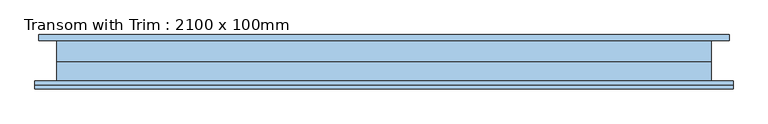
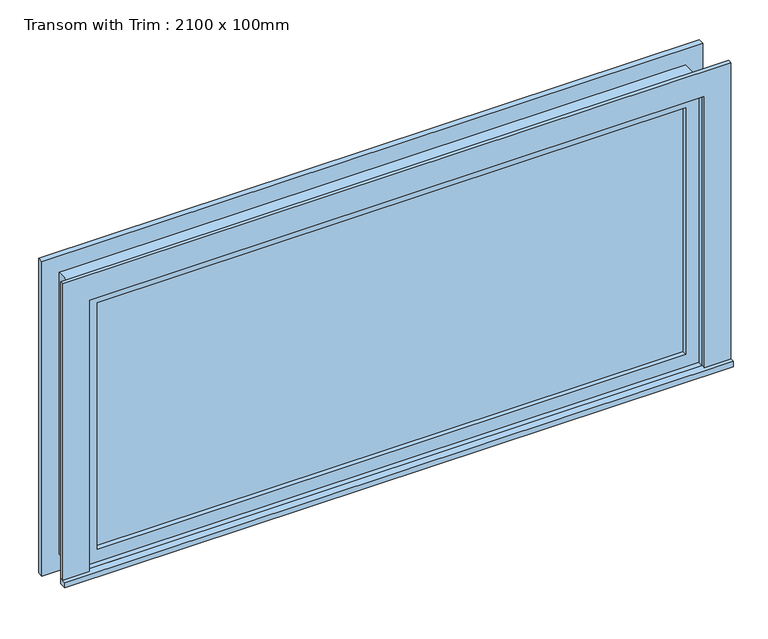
"""IFC4 building model written with IfcOpenShell, lengths in millimetres: window geometry, Transom with Trim : 2100 x 100mm."""

from ifc_helpers import new_model, si_unit, frame, origin, place, context, project, spatial, polyline, outline, extrude, source, transform, mapped, element, save


def transom_with_trim_2100_x_100mm_c4035aed(model_context):
    return source(origin(), model_context, "Body", "SweptSolid", [
        extrude(outline(polyline([(-1157.95, -90.4), (-1157.95, -65.0), (1081.75, -65.0), (1081.75, -90.4), (-1157.95, -90.4)])), frame((0.0, 0.0, 2159.0), z_axis=(0.0, 0.0, 1.0), x_axis=(1.0, 0.0, 0.0)), (0.0, 0.0, 1.0), 19.05),
        extrude(outline(polyline([(3139.95, -1069.05), (3139.95, 992.85), (2178.05, 992.85), (2178.05, 1081.75), (3228.85, 1081.75), (3228.85, -1157.95), (2178.05, -1157.95), (2178.05, -1069.05), (3139.95, -1069.05)])), frame((0.0, -77.7, 0.0), z_axis=(0.0, 1.0, 0.0), x_axis=(0.0, 0.0, 1.0)), (0.0, 0.0, 1.0), 12.7),
        extrude(outline(polyline([(3216.15, 1069.05), (3216.15, -1145.25), (2101.85, -1145.25), (2101.85, 1069.05), (3216.15, 1069.05)]), holes=[polyline([(3127.25, 980.15), (2190.75, 980.15), (2190.75, -1056.35), (3127.25, -1056.35), (3127.25, 980.15)])]), frame((0.0, 65.0, 0.0), z_axis=(0.0, 1.0, 0.0), x_axis=(0.0, 0.0, 1.0)), (0.0, 0.0, 1.0), 19.05),
        extrude(outline(polyline([(948.4, -17.375), (948.4, -30.075), (-1024.6, -30.075), (-1024.6, -17.375), (948.4, -17.375)])), frame((0.0, 0.0, 2222.5), z_axis=(0.0, 0.0, 1.0), x_axis=(1.0, 0.0, 0.0)), (0.0, 0.0, 1.0), 873.0),
        extrude(outline(polyline([(3139.95, -1069.05), (2178.05, -1069.05), (2178.05, 992.85), (3139.95, 992.85), (3139.95, -1069.05)]), holes=[polyline([(3095.5, -1024.6), (3095.5, 948.4), (2222.5, 948.4), (2222.5, -1024.6), (3095.5, -1024.6)])]), frame((0.0, -45.95, 0.0), z_axis=(0.0, 1.0, 0.0), x_axis=(0.0, 0.0, 1.0)), (0.0, 0.0, 1.0), 44.45),
        extrude(outline(polyline([(3159.0, -1088.1), (2159.0, -1088.1), (2159.0, 1011.9), (3159.0, 1011.9), (3159.0, -1088.1)]), holes=[polyline([(3127.25, -1056.35), (3127.25, 980.15), (2190.75, 980.15), (2190.75, -1056.35), (3127.25, -1056.35)])]), frame((0.0, -1.5, 0.0), z_axis=(0.0, 1.0, 0.0), x_axis=(0.0, 0.0, 1.0)), (0.0, 0.0, 1.0), 66.5),
        extrude(outline(polyline([(3159.0, 1011.9), (3159.0, -1088.1), (2159.0, -1088.1), (2159.0, 1011.9), (3159.0, 1011.9)]), holes=[polyline([(3139.95, 992.85), (2178.05, 992.85), (2178.05, -1069.05), (3139.95, -1069.05), (3139.95, 992.85)])]), frame((0.0, -65.0, 0.0), z_axis=(0.0, 1.0, 0.0), x_axis=(0.0, 0.0, 1.0)), (0.0, 0.0, 1.0), 63.5),
    ])


if __name__ == "__main__":
    model = new_model("IFC4")
    model_context = context("Model", 3, world=origin())
    ifc_project = project(units=[si_unit("LENGTHUNIT", "METRE", prefix="MILLI")], contexts=[model_context])
    site = spatial("IfcSite", under=ifc_project)
    building = spatial("IfcBuilding", under=site)
    placement = place(None, origin())
    transom_with_trim_2100_x_100mm_shape = transom_with_trim_2100_x_100mm_c4035aed(model_context)
    element("IfcWindow", 1, ObjectType="Transom with Trim : 2100 x 100mm", at=placement, inside=building, context=model_context, shape_type="MappedRepresentation", body=[
        mapped(transom_with_trim_2100_x_100mm_shape, transform((0.0, 0.0, 0.0), x_axis=(1.0, 0.0, 0.0), y_axis=(0.0, 1.0, 0.0), z_axis=(0.0, 0.0, 1.0))),
    ])
    save(model, "model.ifc")
